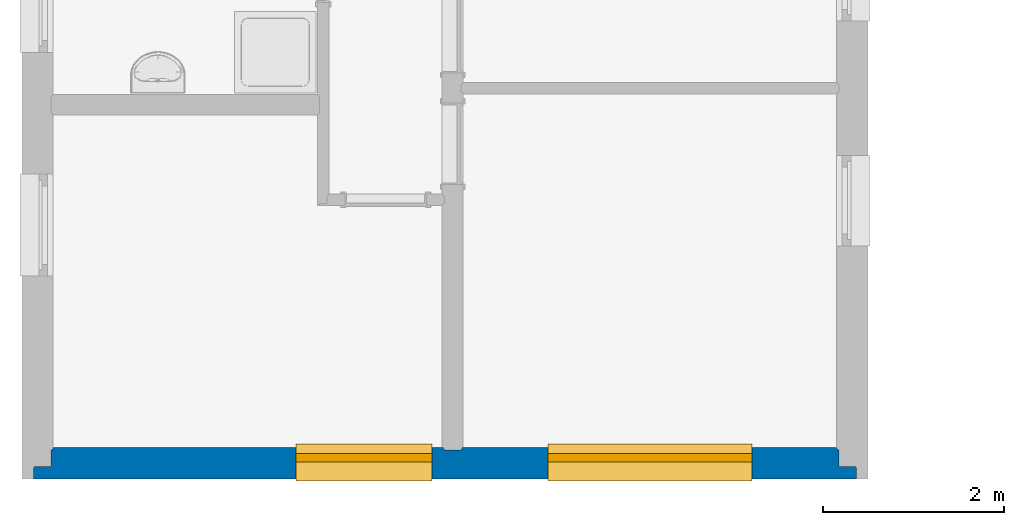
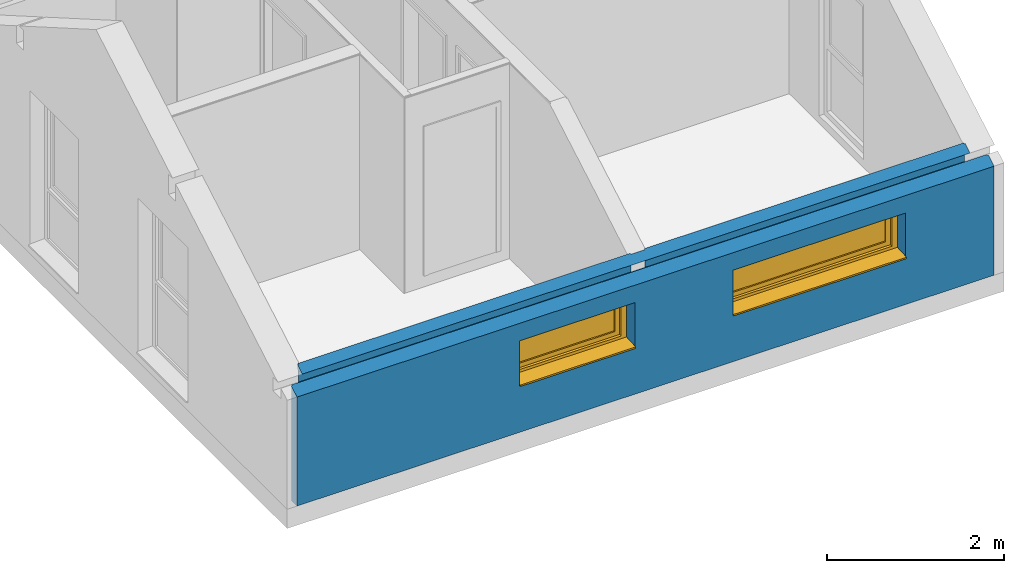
# One storey, part 2 of 7: 2 windows, 1 wall, 2 openings.
"""IFC2X3 building model written with IfcOpenShell, lengths in millimetres."""

from ifc_helpers import new_model, entity, si_unit, converted_unit, derived_unit, money_unit, direction, frame, origin_with_axes, place, context, subcontext, project, spatial, open_shell, faceted_brep, surface_model, material, material_list, type_object, element, fill, save


model = new_model("IFC2X3")

# Units and contexts
model_context = context("Model", 3, precision=0.01, world=origin_with_axes(), true_north=direction((0.0, 1.0)))
body_context = subcontext(model_context, "Body", "Model", "MODEL_VIEW")
ifc_project = project(units=[si_unit("LENGTHUNIT", "METRE", prefix="MILLI"), si_unit("AREAUNIT", "SQUARE_METRE"), si_unit("VOLUMEUNIT", "CUBIC_METRE"), converted_unit("PLANEANGLEUNIT", "DEGREE", entity("IfcPlaneAngleMeasure", 0.0174532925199), si_unit("PLANEANGLEUNIT", "RADIAN"), dimensions=[0, 0, 0, 0, 0, 0, 0]), si_unit("SOLIDANGLEUNIT", "STERADIAN"), money_unit("USD"), converted_unit("TIMEUNIT", "Year", entity("IfcTimeMeasure", 31556926.0), si_unit("TIMEUNIT", "SECOND"), dimensions=[0, 0, 1, 0, 0, 0, 0]), si_unit("MASSUNIT", "GRAM", prefix="KILO"), si_unit("THERMODYNAMICTEMPERATUREUNIT", "DEGREE_CELSIUS"), si_unit("LUMINOUSINTENSITYUNIT", "LUMEN"), si_unit("ENERGYUNIT", "JOULE", prefix="MEGA"), derived_unit("THERMALCONDUCTANCEUNIT", [(si_unit("POWERUNIT", "WATT"), 1), (si_unit("LENGTHUNIT", "METRE"), -1), (si_unit("THERMODYNAMICTEMPERATUREUNIT", "KELVIN"), -1)]), derived_unit("SPECIFICHEATCAPACITYUNIT", [(si_unit("ENERGYUNIT", "JOULE"), 1), (si_unit("MASSUNIT", "GRAM", prefix="KILO"), -1), (si_unit("THERMODYNAMICTEMPERATUREUNIT", "KELVIN"), -1)]), derived_unit("MASSDENSITYUNIT", [(si_unit("MASSUNIT", "GRAM", prefix="KILO"), 1), (si_unit("VOLUMEUNIT", "CUBIC_METRE"), -1)])], contexts=[model_context])

# Site, building, storey
site_placement = place(None, origin_with_axes())
site = spatial("IfcSite", under=ifc_project, at=site_placement, Name="Lokalizacja", CompositionType="ELEMENT")
building_placement = place(site_placement, origin_with_axes())
building = spatial("IfcBuilding", under=site, at=building_placement, Name="Budynek", CompositionType="ELEMENT")
storey_placement = place(building_placement, frame((0.0, 0.0, 2954.0), z_axis=(0.0, 0.0, 1.0), x_axis=(1.0, 0.0, 0.0)))
storey = spatial("IfcBuildingStorey", under=building, at=storey_placement, Name="DG", CompositionType="ELEMENT", Elevation=2954.0)

# Wall, openings, windows
ifc_material_1 = material(Name="Płyta GK")
ifc_material_2 = material(Name="Płyta OSB")
ifc_material_3 = material(Name="Drewno konstrukcyjne")
ifc_material_4 = material(Name="Płyty styropianowe miękkie")
ifc_material_list = material_list([ifc_material_1, ifc_material_2, ifc_material_3, ifc_material_2, ifc_material_4])
wall_type = type_object("IfcWallType", Name="002- _dan_SZ_345 345", PredefinedType="NOTDEFINED")
wall_placement = place(storey_placement, frame((1.15825571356e-07, -7929.99728939, -160.0), z_axis=(0.0, 0.0, 1.0), x_axis=(1.0, 0.0, 0.0)))
wall = element("IfcWall", 1, at=wall_placement, inside=storey, type_object=wall_type, material=ifc_material_list, Name="SZ2", context=body_context, shape_type="Brep", body=[
    faceted_brep([(4506.99999989, 3.47277762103e-10, 1673.85815388), (8640.00006096, 3.46389583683e-10, 1673.85815388), (8640.00006096, 0.0, 0.0), (4506.99999989, 0.0, 0.0), (8640.00006096, -13.0, 1666.35260038), (4506.99999989, -13.0, 1666.35260038), (8640.00006096, -13.0, 0.0), (4506.99999989, -13.0, 0.0)], [[[0, 1, 2, 3]], [[4, 1, 0, 5]], [[1, 4, 6, 2]], [[2, 6, 7, 3]], [[5, 0, 3, 7]], [[4, 5, 7, 6]]]),
    faceted_brep([(0.0, 3.47277762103e-10, 1673.85815388), (4302.99999989, 3.46389583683e-10, 1673.85815388), (4302.99999989, 0.0, 0.0), (0.0, 0.0, 0.0), (4302.99999989, -13.0, 1666.35260038), (0.0, -13.0, 1666.35260038), (4302.99999989, -13.0, 0.0), (0.0, -13.0, 0.0)], [[[0, 1, 2, 3]], [[4, 1, 0, 5]], [[1, 4, 6, 2]], [[2, 6, 7, 3]], [[5, 0, 3, 7]], [[4, 5, 7, 6]]]),
    faceted_brep([(4494.99999989, -13.0, 1691.75601222), (8653.00006096, -13.0, 1691.75601222), (8653.00006096, -13.0, 0.0), (4494.99999989, -13.0, 0.0), (8653.00006096, -25.0, 1684.82780899), (4494.99999989, -25.0, 1684.82780899), (8653.00006096, -25.0, 0.0), (4494.99999989, -25.0, 0.0)], [[[0, 1, 2, 3]], [[4, 1, 0, 5]], [[1, 4, 6, 2]], [[3, 2, 6, 7]], [[5, 0, 3, 7]], [[4, 5, 7, 6]]]),
    faceted_brep([(-13.0, -13.0, 1691.75601222), (4314.99999989, -13.0, 1691.75601222), (4314.99999989, -13.0, 0.0), (-13.0, -13.0, 0.0), (4314.99999989, -25.0, 1684.82780899), (-13.0, -25.0, 1684.82780899), (4314.99999989, -25.0, 0.0), (-13.0, -25.0, 0.0)], [[[0, 1, 2, 3]], [[4, 1, 0, 5]], [[1, 4, 6, 2]], [[3, 2, 6, 7]], [[5, 0, 3, 7]], [[4, 5, 7, 6]]]),
    faceted_brep([(-25.0, -25.0, 0.0), (-25.0, -25.0030259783, 1441.31753233), (8665.00006096, -25.0030259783, 1441.31753233), (8665.00006096, -25.0, 0.0), (-25.0, -205.0, 0.0), (-25.0, -205.003025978, 1441.31753233), (8665.00006096, -205.003025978, 1441.31753233), (8665.00006096, -205.0, 0.0)], [[[0, 1, 2, 3]], [[4, 5, 1, 0]], [[5, 6, 2, 1]], [[3, 2, 6, 7]], [[0, 3, 7, 4]], [[7, 6, 5, 4]]]),
    faceted_brep([(-25.0, -25.0005603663, 1684.82748547), (8665.00006096, -25.0005603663, 1684.82748547), (8665.00006096, -25.0030259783, 1621.31753233), (-25.0, -25.0030259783, 1621.31753233), (8665.00006096, -135.003025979, 1621.31753233), (-25.0, -135.003025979, 1621.31753233)], [[[0, 1, 2, 3]], [[4, 1, 0, 5]], [[1, 4, 2]], [[4, 5, 3, 2]], [[5, 0, 3]]]),
    faceted_brep([(-205.0, -205.0, 1580.90476054), (8845.00006096, -205.0, 1580.90476054), (8845.00006096, -205.0, 0.0), (-205.0, -205.0, 0.0), (8845.00006096, -217.0, 1573.97655731), (-205.0, -217.0, 1573.97655731), (8845.00006096, -217.0, 0.0), (-205.0, -217.0, 0.0)], [[[0, 1, 2, 3]], [[4, 1, 0, 5]], [[1, 4, 6, 2]], [[3, 2, 6, 7]], [[5, 0, 3, 7]], [[4, 5, 7, 6]]]),
    faceted_brep([(-217.0, -217.0, 1573.97655731), (8857.00006096, -217.0, 1573.97655731), (8857.00006096, -217.0, 0.0), (-217.0, -217.0, 0.0), (8857.00006096, -345.0, 1500.07572285), (-217.0, -345.0, 1500.07572285), (8857.00006096, -345.0, 0.0), (-217.0, -345.0, 0.0)], [[[0, 1, 2, 3]], [[4, 1, 0, 5]], [[1, 4, 6, 2]], [[2, 6, 7, 3]], [[5, 0, 3, 7]], [[4, 5, 7, 6]]]),
])
opening_1_placement = place(wall_placement, frame((3429.99999772, 0.0, 635.0), z_axis=(0.0, 0.0, 1.0), x_axis=(1.0, 0.0, 0.0)))
opening_1 = element("IfcOpeningElement", 2, at=opening_1_placement, cuts=wall, context=body_context, shape_type="Brep", body=[
    faceted_brep([(-750.0, -157.0, 625.0), (-750.0, -157.0, 0.0), (-750.0, -690.0, 0.0), (-750.0, -690.0, 625.0), (750.0, -157.0, 625.0), (750.0, -157.0, 0.0), (750.0, -690.0, 0.0), (750.0, -690.0, 625.0)], [[[0, 1, 2, 3]], [[0, 4, 5, 1]], [[1, 5, 6, 2]], [[3, 2, 6, 7]], [[4, 0, 3, 7]], [[5, 4, 7, 6]]]),
    faceted_brep([(-750.0, -157.0, 0.0), (-750.0, -157.0, 625.0), (-750.0, 345.0, 625.0), (-750.0, 345.0, 0.0), (750.0, -157.0, 0.0), (750.0, -157.0, 625.0), (750.0, 345.0, 625.0), (750.0, 345.0, 0.0)], [[[0, 1, 2, 3]], [[0, 4, 5, 1]], [[1, 5, 6, 2]], [[3, 2, 6, 7]], [[4, 0, 3, 7]], [[5, 4, 7, 6]]]),
])
opening_2_placement = place(wall_placement, frame((6579.99999989, 0.0, 635.0), z_axis=(0.0, 0.0, 1.0), x_axis=(1.0, 0.0, 0.0)))
opening_2 = element("IfcOpeningElement", 3, at=opening_2_placement, cuts=wall, context=body_context, shape_type="Brep", body=[
    faceted_brep([(-1125.0, -157.0, 625.0), (-1125.0, -157.0, 0.0), (-1125.0, -690.0, 0.0), (-1125.0, -690.0, 625.0), (1125.0, -157.0, 625.0), (1125.0, -157.0, 0.0), (1125.0, -690.0, 0.0), (1125.0, -690.0, 625.0)], [[[0, 1, 2, 3]], [[0, 4, 5, 1]], [[1, 5, 6, 2]], [[3, 2, 6, 7]], [[4, 0, 3, 7]], [[5, 4, 7, 6]]]),
    faceted_brep([(-1125.0, -157.0, 0.0), (-1125.0, -157.0, 625.0), (-1125.0, 345.0, 625.0), (-1125.0, 345.0, 0.0), (1125.0, -157.0, 0.0), (1125.0, -157.0, 625.0), (1125.0, 345.0, 625.0), (1125.0, 345.0, 0.0)], [[[0, 1, 2, 3]], [[0, 4, 5, 1]], [[1, 5, 6, 2]], [[3, 2, 6, 7]], [[4, 0, 3, 7]], [[5, 4, 7, 6]]]),
])
window_style_1 = type_object("IfcWindowStyle", Name="Okno 24", ConstructionType="NOTDEFINED", OperationType="SINGLE_PANEL", ParameterTakesPrecedence=False, Sizeable=False)
window_1_placement = place(opening_2_placement, frame((-1115.0, 0.0, 0.0), z_axis=(0.0, 0.0, 1.0), x_axis=(1.0, 0.0, 0.0)))
window_1 = element("IfcWindow", 4, at=window_1_placement, inside=storey, type_object=window_style_1, OverallHeight=625.0, OverallWidth=2250.0, context=body_context, shape_type="SurfaceModel", body=[
    surface_model("IfcShellBasedSurfaceModel", [(2240.0, -158.0, 50.0), (-10.0, -158.0, 50.0), (-10.0, -158.0, 40.0), (2240.0, -158.0, 40.0), (-10.0, -365.0, 28.9361702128), (2240.0, -365.0, 28.9361702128), (-10.0, -365.0, 8.93617021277), (2240.0, -365.0, 8.93617021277), (-10.0, -355.0, 18.9361702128), (2240.0, -355.0, 18.9361702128)], [open_shell([[[0, 1, 2, 3]], [[3, 2, 4, 5]], [[5, 4, 6, 7]], [[7, 6, 8, 9]]])]),
    faceted_brep([(-10.0, -61.0, 0.0), (-10.0, -61.0, 30.0), (-10.0, 0.0, 30.0), (-10.0, 0.0, 0.0), (2240.0, -61.0, 0.0), (2240.0, -61.0, 30.0), (2240.0, 0.0, 30.0), (2240.0, 40.0, 30.0), (-10.0, 40.0, 30.0), (-10.0, 40.0, 0.0), (2240.0, 40.0, 0.0), (2240.0, 0.0, 0.0)], [[[0, 1, 2, 3]], [[4, 5, 1, 0]], [[1, 5, 6, 7, 8, 2]], [[3, 2, 8, 9]], [[0, 3, 9, 10, 11, 4]], [[11, 6, 5, 4]], [[10, 7, 6, 11]], [[9, 8, 7, 10]]]),
    faceted_brep([(2170.1, -61.0, 555.0), (2170.1, -121.0, 555.0), (2170.0, -121.0, 555.0), (2170.0, -157.0, 555.0), (2240.0, -157.0, 555.0), (2240.0, -61.0, 555.0), (2170.1, -61.0, 77.0), (2170.1, -121.0, 77.0), (2170.0, -121.0, 77.0), (2170.0, -157.0, 77.0), (2240.0, -157.0, 77.0), (2240.0, -61.0, 77.0)], [[[0, 1, 2, 3, 4, 5]], [[1, 0, 6, 7]], [[8, 2, 1, 7]], [[2, 8, 9, 3]], [[4, 3, 9, 10]], [[5, 4, 10, 11]], [[6, 0, 5, 11]], [[7, 6, 11, 10, 9, 8]]]),
    faceted_brep([(60.0, -121.0, 555.0), (59.9, -121.0, 555.0), (59.9, -61.0, 555.0), (-10.0, -61.0, 555.0), (-10.0, -157.0, 555.0), (60.0, -157.0, 555.0), (60.0, -121.0, 77.0), (59.9, -121.0, 77.0), (59.9, -61.0, 77.0), (-10.0, -61.0, 77.0), (-10.0, -157.0, 77.0), (60.0, -157.0, 77.0)], [[[0, 1, 2, 3, 4, 5]], [[1, 0, 6, 7]], [[8, 2, 1, 7]], [[2, 8, 9, 3]], [[9, 10, 4, 3]], [[10, 11, 5, 4]], [[6, 0, 5, 11]], [[7, 6, 11, 10, 9, 8]]]),
    faceted_brep([(60.0, -121.0, 77.0), (59.9, -121.0, 77.0), (59.9, -61.0, 77.0), (-10.0, -61.0, 77.0), (-10.0, -157.0, 77.0), (60.0, -157.0, 77.0), (2170.0, -121.0, 77.0), (2170.1, -121.0, 77.0), (2170.1, -121.0, 76.9), (59.9, -121.0, 76.9), (59.9, -61.0, 76.9), (2170.1, -61.0, 76.9), (2170.1, -61.0, 77.0), (2240.0, -61.0, 77.0), (2240.0, -61.0, 0.0), (-10.0, -61.0, 0.0), (-10.0, -157.0, 0.0), (2240.0, -157.0, 77.0), (2170.0, -157.0, 77.0), (2240.0, -157.0, 0.0)], [[[0, 1, 2, 3, 4, 5]], [[1, 0, 6, 7, 8, 9]], [[10, 2, 1, 9]], [[11, 12, 13, 14, 15, 3, 2, 10]], [[15, 16, 4, 3]], [[17, 18, 5, 4, 16, 19]], [[6, 0, 5, 18]], [[7, 6, 18, 17, 13, 12]], [[7, 12, 11, 8]], [[11, 10, 9, 8]], [[13, 17, 19, 14]], [[14, 19, 16, 15]]]),
    faceted_brep([(2170.1, -61.0, 555.0), (2170.1, -61.0, 555.1), (59.9, -61.0, 555.1), (59.9, -61.0, 555.0), (-10.0, -61.0, 555.0), (-10.0, -61.0, 625.0), (2240.0, -61.0, 625.0), (2240.0, -61.0, 555.0), (2170.1, -121.0, 555.0), (2170.1, -121.0, 555.1), (59.9, -121.0, 555.1), (59.9, -121.0, 555.0), (60.0, -121.0, 555.0), (60.0, -157.0, 555.0), (-10.0, -157.0, 555.0), (-10.0, -157.0, 625.0), (2240.0, -157.0, 625.0), (2240.0, -157.0, 555.0), (2170.0, -157.0, 555.0), (2170.0, -121.0, 555.0)], [[[0, 1, 2, 3, 4, 5, 6, 7]], [[1, 0, 8, 9]], [[2, 1, 9, 10]], [[3, 2, 10, 11]], [[11, 12, 13, 14, 4, 3]], [[4, 14, 15, 5]], [[5, 15, 16, 6]], [[6, 16, 17, 7]], [[8, 0, 7, 17, 18, 19]], [[12, 11, 10, 9, 8, 19]], [[12, 19, 18, 13]], [[14, 13, 18, 17, 16, 15]]]),
    faceted_brep([(2110.1, -121.0, 495.1), (2170.1, -121.0, 495.1), (2170.1, -61.0, 495.1), (2110.1, -61.0, 495.1), (2110.1, -121.0, 136.9), (2170.1, -121.0, 136.9), (2170.1, -61.0, 136.9), (2110.1, -61.0, 136.9)], [[[0, 1, 2, 3]], [[0, 4, 5, 1]], [[1, 5, 6, 2]], [[3, 2, 6, 7]], [[4, 0, 3, 7]], [[5, 4, 7, 6]]]),
    faceted_brep([(119.9, -121.0, 136.9), (59.9, -121.0, 136.9), (59.9, -61.0, 136.9), (119.9, -61.0, 136.9), (119.9, -121.0, 495.1), (59.9, -121.0, 495.1), (59.9, -61.0, 495.1), (119.9, -61.0, 495.1)], [[[0, 1, 2, 3]], [[0, 4, 5, 1]], [[1, 5, 6, 2]], [[3, 2, 6, 7]], [[4, 0, 3, 7]], [[5, 4, 7, 6]]]),
    faceted_brep([(59.9, -121.0, 76.9), (59.9, -121.0, 136.9), (59.9, -61.0, 136.9), (59.9, -61.0, 76.9), (2170.1, -121.0, 76.9), (2170.1, -121.0, 136.9), (2110.1, -121.0, 136.9), (119.9, -121.0, 136.9), (119.9, -61.0, 136.9), (2110.1, -61.0, 136.9), (2170.1, -61.0, 136.9), (2170.1, -61.0, 76.9)], [[[0, 1, 2, 3]], [[0, 4, 5, 6, 7, 1]], [[1, 7, 8, 2]], [[3, 2, 8, 9, 10, 11]], [[4, 0, 3, 11]], [[5, 4, 11, 10]], [[6, 5, 10, 9]], [[7, 6, 9, 8]]]),
    faceted_brep([(2170.1, -121.0, 555.1), (2170.1, -121.0, 495.1), (2170.1, -61.0, 495.1), (2170.1, -61.0, 555.1), (59.9, -121.0, 555.1), (59.9, -121.0, 495.1), (119.9, -121.0, 495.1), (2110.1, -121.0, 495.1), (2110.1, -61.0, 495.1), (119.9, -61.0, 495.1), (59.9, -61.0, 495.1), (59.9, -61.0, 555.1)], [[[0, 1, 2, 3]], [[0, 4, 5, 6, 7, 1]], [[1, 7, 8, 2]], [[3, 2, 8, 9, 10, 11]], [[4, 0, 3, 11]], [[5, 4, 11, 10]], [[6, 5, 10, 9]], [[7, 6, 9, 8]]]),
    surface_model("IfcShellBasedSurfaceModel", [(2110.1, -101.0, 136.9), (2110.1, -101.0, 495.1), (119.9, -101.0, 495.1), (119.9, -101.0, 136.9)], [open_shell([[[0, 1, 2, 3]]])]),
    surface_model("IfcShellBasedSurfaceModel", [(2110.1, -81.0, 136.9), (119.9, -81.0, 136.9), (119.9, -81.0, 495.1), (2110.1, -81.0, 495.1)], [open_shell([[[0, 1, 2, 3]]])]),
])
fill(opening_2, window_1)
window_style_2 = type_object("IfcWindowStyle", Name="Okno 24", ConstructionType="NOTDEFINED", OperationType="SINGLE_PANEL", ParameterTakesPrecedence=False, Sizeable=False)
window_2_placement = place(opening_1_placement, frame((-740.0, 0.0, 0.0), z_axis=(0.0, 0.0, 1.0), x_axis=(1.0, 0.0, 0.0)))
window_2 = element("IfcWindow", 5, at=window_2_placement, inside=storey, type_object=window_style_2, OverallHeight=625.0, OverallWidth=1500.0, context=body_context, shape_type="SurfaceModel", body=[
    surface_model("IfcShellBasedSurfaceModel", [(1490.0, -158.0, 50.0), (-10.0, -158.0, 50.0), (-10.0, -158.0, 40.0), (1490.0, -158.0, 40.0), (-10.0, -365.0, 28.9361702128), (1490.0, -365.0, 28.9361702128), (-10.0, -365.0, 8.93617021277), (1490.0, -365.0, 8.93617021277), (-10.0, -355.0, 18.9361702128), (1490.0, -355.0, 18.9361702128)], [open_shell([[[0, 1, 2, 3]], [[3, 2, 4, 5]], [[5, 4, 6, 7]], [[7, 6, 8, 9]]])]),
    faceted_brep([(-10.0, -61.0, 0.0), (-10.0, -61.0, 30.0), (-10.0, 0.0, 30.0), (-10.0, 0.0, 0.0), (1490.0, -61.0, 0.0), (1490.0, -61.0, 30.0), (1490.0, 0.0, 30.0), (1490.0, 40.0, 30.0), (-10.0, 40.0, 30.0), (-10.0, 40.0, 0.0), (1490.0, 40.0, 0.0), (1490.0, 0.0, 0.0)], [[[0, 1, 2, 3]], [[4, 5, 1, 0]], [[1, 5, 6, 7, 8, 2]], [[3, 2, 8, 9]], [[0, 3, 9, 10, 11, 4]], [[11, 6, 5, 4]], [[10, 7, 6, 11]], [[9, 8, 7, 10]]]),
    faceted_brep([(1420.1, -61.0, 555.0), (1420.1, -121.0, 555.0), (1420.0, -121.0, 555.0), (1420.0, -157.0, 555.0), (1490.0, -157.0, 555.0), (1490.0, -61.0, 555.0), (1420.1, -61.0, 77.0), (1420.1, -121.0, 77.0), (1420.0, -121.0, 77.0), (1420.0, -157.0, 77.0), (1490.0, -157.0, 77.0), (1490.0, -61.0, 77.0)], [[[0, 1, 2, 3, 4, 5]], [[1, 0, 6, 7]], [[8, 2, 1, 7]], [[2, 8, 9, 3]], [[4, 3, 9, 10]], [[5, 4, 10, 11]], [[6, 0, 5, 11]], [[7, 6, 11, 10, 9, 8]]]),
    faceted_brep([(60.0, -121.0, 555.0), (59.9, -121.0, 555.0), (59.9, -61.0, 555.0), (-10.0, -61.0, 555.0), (-10.0, -157.0, 555.0), (60.0, -157.0, 555.0), (60.0, -121.0, 77.0), (59.9, -121.0, 77.0), (59.9, -61.0, 77.0), (-10.0, -61.0, 77.0), (-10.0, -157.0, 77.0), (60.0, -157.0, 77.0)], [[[0, 1, 2, 3, 4, 5]], [[1, 0, 6, 7]], [[8, 2, 1, 7]], [[2, 8, 9, 3]], [[9, 10, 4, 3]], [[10, 11, 5, 4]], [[6, 0, 5, 11]], [[7, 6, 11, 10, 9, 8]]]),
    faceted_brep([(60.0, -121.0, 77.0), (59.9, -121.0, 77.0), (59.9, -61.0, 77.0), (-10.0, -61.0, 77.0), (-10.0, -157.0, 77.0), (60.0, -157.0, 77.0), (1420.0, -121.0, 77.0), (1420.1, -121.0, 77.0), (1420.1, -121.0, 76.9), (59.9, -121.0, 76.9), (59.9, -61.0, 76.9), (1420.1, -61.0, 76.9), (1420.1, -61.0, 77.0), (1490.0, -61.0, 77.0), (1490.0, -61.0, 0.0), (-10.0, -61.0, 0.0), (-10.0, -157.0, 0.0), (1490.0, -157.0, 77.0), (1420.0, -157.0, 77.0), (1490.0, -157.0, 0.0)], [[[0, 1, 2, 3, 4, 5]], [[1, 0, 6, 7, 8, 9]], [[10, 2, 1, 9]], [[11, 12, 13, 14, 15, 3, 2, 10]], [[15, 16, 4, 3]], [[17, 18, 5, 4, 16, 19]], [[6, 0, 5, 18]], [[7, 6, 18, 17, 13, 12]], [[7, 12, 11, 8]], [[11, 10, 9, 8]], [[13, 17, 19, 14]], [[14, 19, 16, 15]]]),
    faceted_brep([(1420.1, -61.0, 555.0), (1420.1, -61.0, 555.1), (59.9, -61.0, 555.1), (59.9, -61.0, 555.0), (-10.0, -61.0, 555.0), (-10.0, -61.0, 625.0), (1490.0, -61.0, 625.0), (1490.0, -61.0, 555.0), (1420.1, -121.0, 555.0), (1420.1, -121.0, 555.1), (59.9, -121.0, 555.1), (59.9, -121.0, 555.0), (60.0, -121.0, 555.0), (60.0, -157.0, 555.0), (-10.0, -157.0, 555.0), (-10.0, -157.0, 625.0), (1490.0, -157.0, 625.0), (1490.0, -157.0, 555.0), (1420.0, -157.0, 555.0), (1420.0, -121.0, 555.0)], [[[0, 1, 2, 3, 4, 5, 6, 7]], [[1, 0, 8, 9]], [[2, 1, 9, 10]], [[3, 2, 10, 11]], [[11, 12, 13, 14, 4, 3]], [[4, 14, 15, 5]], [[5, 15, 16, 6]], [[6, 16, 17, 7]], [[8, 0, 7, 17, 18, 19]], [[12, 11, 10, 9, 8, 19]], [[12, 19, 18, 13]], [[14, 13, 18, 17, 16, 15]]]),
    faceted_brep([(1360.1, -121.0, 495.1), (1420.1, -121.0, 495.1), (1420.1, -61.0, 495.1), (1360.1, -61.0, 495.1), (1360.1, -121.0, 136.9), (1420.1, -121.0, 136.9), (1420.1, -61.0, 136.9), (1360.1, -61.0, 136.9)], [[[0, 1, 2, 3]], [[0, 4, 5, 1]], [[1, 5, 6, 2]], [[3, 2, 6, 7]], [[4, 0, 3, 7]], [[5, 4, 7, 6]]]),
    faceted_brep([(119.9, -121.0, 136.9), (59.9, -121.0, 136.9), (59.9, -61.0, 136.9), (119.9, -61.0, 136.9), (119.9, -121.0, 495.1), (59.9, -121.0, 495.1), (59.9, -61.0, 495.1), (119.9, -61.0, 495.1)], [[[0, 1, 2, 3]], [[0, 4, 5, 1]], [[1, 5, 6, 2]], [[3, 2, 6, 7]], [[4, 0, 3, 7]], [[5, 4, 7, 6]]]),
    faceted_brep([(59.9, -121.0, 76.9), (59.9, -121.0, 136.9), (59.9, -61.0, 136.9), (59.9, -61.0, 76.9), (1420.1, -121.0, 76.9), (1420.1, -121.0, 136.9), (1360.1, -121.0, 136.9), (119.9, -121.0, 136.9), (119.9, -61.0, 136.9), (1360.1, -61.0, 136.9), (1420.1, -61.0, 136.9), (1420.1, -61.0, 76.9)], [[[0, 1, 2, 3]], [[0, 4, 5, 6, 7, 1]], [[1, 7, 8, 2]], [[3, 2, 8, 9, 10, 11]], [[4, 0, 3, 11]], [[5, 4, 11, 10]], [[6, 5, 10, 9]], [[7, 6, 9, 8]]]),
    faceted_brep([(1420.1, -121.0, 555.1), (1420.1, -121.0, 495.1), (1420.1, -61.0, 495.1), (1420.1, -61.0, 555.1), (59.9, -121.0, 555.1), (59.9, -121.0, 495.1), (119.9, -121.0, 495.1), (1360.1, -121.0, 495.1), (1360.1, -61.0, 495.1), (119.9, -61.0, 495.1), (59.9, -61.0, 495.1), (59.9, -61.0, 555.1)], [[[0, 1, 2, 3]], [[0, 4, 5, 6, 7, 1]], [[1, 7, 8, 2]], [[3, 2, 8, 9, 10, 11]], [[4, 0, 3, 11]], [[5, 4, 11, 10]], [[6, 5, 10, 9]], [[7, 6, 9, 8]]]),
    surface_model("IfcShellBasedSurfaceModel", [(1360.1, -101.0, 136.9), (1360.1, -101.0, 495.1), (119.9, -101.0, 495.1), (119.9, -101.0, 136.9)], [open_shell([[[0, 1, 2, 3]]])]),
    surface_model("IfcShellBasedSurfaceModel", [(1360.1, -81.0, 136.9), (119.9, -81.0, 136.9), (119.9, -81.0, 495.1), (1360.1, -81.0, 495.1)], [open_shell([[[0, 1, 2, 3]]])]),
])
fill(opening_1, window_2)

save(model, "model.ifc")
